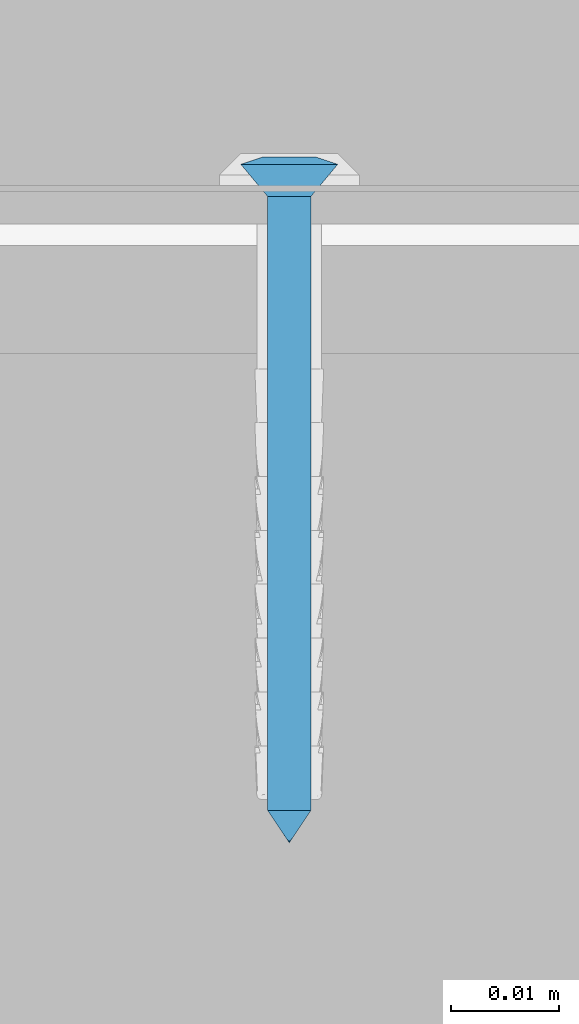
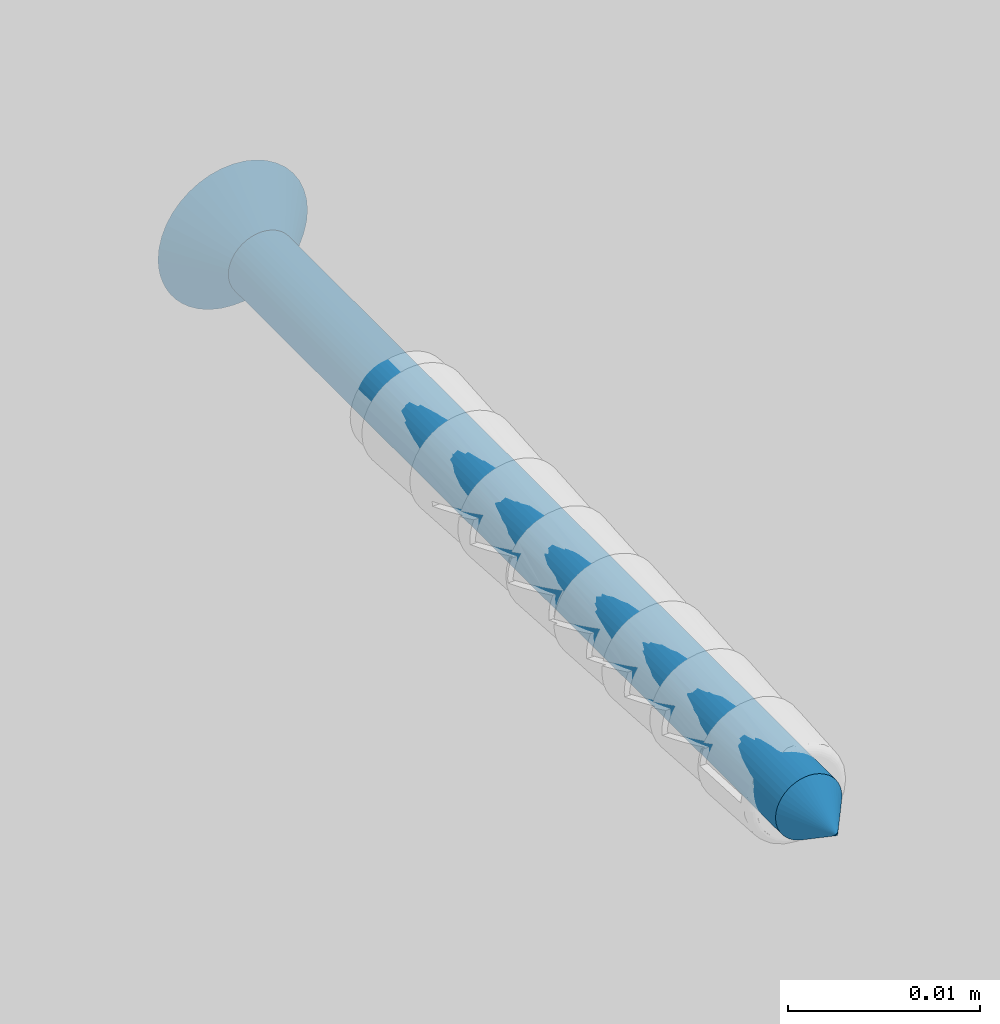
# One storey, part 17 of 92: 1 wall.
"""IFC2X3 building model written with IfcOpenShell, lengths in millimetres."""

from ifc_helpers import new_model, si_unit, frame, origin_with_axes, place, context, subcontext, project, spatial, faceted_brep, material, type_object, element, save


model = new_model("IFC2X3")

# Units and contexts
model_context = context("Model", 3, world=origin_with_axes())
body_context = subcontext(model_context, "Body", "Model", "MODEL_VIEW")
ifc_project = project(units=[si_unit("LENGTHUNIT", "METRE", prefix="MILLI"), si_unit("AREAUNIT", "SQUARE_METRE"), si_unit("VOLUMEUNIT", "CUBIC_METRE")], contexts=[model_context])

# Site, building, storey
site_placement = place(None, origin_with_axes())
site = spatial("IfcSite", under=ifc_project, at=site_placement, Name="Default Site", CompositionType="ELEMENT")
building_placement = place(site_placement, origin_with_axes())
building = spatial("IfcBuilding", under=site, at=building_placement, Name="Default Building", CompositionType="ELEMENT")
storey_placement = place(building_placement, origin_with_axes())
storey = spatial("IfcBuildingStorey", under=building, at=storey_placement, Name="Default Building Storey", CompositionType="ELEMENT", Elevation=0.0)

# Wall
ifc_material = material(Name="Default")
wall_type = type_object("IfcWallType", Name="Kołek rozporowy min. fi 6", PredefinedType="NOTDEFINED")
wall_placement = place(storey_placement, frame((3527.8498144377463, 118.01549176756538, 3446.231090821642), z_axis=(-1.89380159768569e-13, 1.0, 3.3306690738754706e-16), x_axis=(1.9030997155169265e-13, -3.3306690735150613e-16, 1.0)))
element("IfcWall", 1, at=wall_placement, inside=storey, type_object=wall_type, material=ifc_material, Name="Kołek rozporowy min. fi 6", context=body_context, shape_type="Brep", body=[
    faceted_brep([(-1438.2587671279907, -3452.579259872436, -0.46425670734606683), (-1435.7895851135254, -3452.970266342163, -3.464256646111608), (-1435.8141422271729, -3453.2833099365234, -3.464256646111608), (-1438.3141994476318, -3453.2833099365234, -0.46425670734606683), (-1438.093900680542, -3451.892614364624, -0.46425670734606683), (-1435.7162714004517, -3452.6650905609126, -3.464256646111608), (-1437.8236532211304, -3451.240301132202, -0.46425670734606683), (-1435.5961084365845, -3452.3751735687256, -3.464256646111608), (-1437.4547004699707, -3450.6382942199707, -0.46425670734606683), (-1435.4321956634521, -3452.107667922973, -3.464256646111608), (-1436.9961023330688, -3450.101137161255, -0.46425670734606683), (-1435.22834777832, -3451.8690109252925, -3.464256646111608), (-1436.4591836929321, -3449.642658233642, -0.46425670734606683), (-1434.9896907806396, -3451.665163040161, -3.464256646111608), (-1435.8570575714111, -3449.2735862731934, -0.46425670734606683), (-1434.7221851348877, -3451.501131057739, -3.464256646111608), (-1435.2047443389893, -3449.0034580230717, -0.46425670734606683), (-1434.4321489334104, -3451.381206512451, -3.464256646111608), (-1434.5180988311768, -3448.838710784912, -0.46425670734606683), (-1434.1269731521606, -3451.307773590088, -3.464256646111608), (-1433.8141679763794, -3448.7831592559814, -0.46425670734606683), (-1433.8141679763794, -3451.28321647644, -3.464256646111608), (-1433.110237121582, -3448.838710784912, -0.46425670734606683), (-1433.5012435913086, -3451.307773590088, -3.464256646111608), (-1432.4235916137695, -3449.0034580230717, -0.46425670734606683), (-1433.1960678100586, -3451.381206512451, -3.464256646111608), (-1431.771159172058, -3449.2735862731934, -0.46425670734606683), (-1432.9061508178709, -3451.501131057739, -3.464256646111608), (-1431.1691522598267, -3449.642658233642, -0.46425670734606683), (-1432.6385259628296, -3451.665163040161, -3.464256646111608), (-1430.6321144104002, -3450.101137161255, -0.46425670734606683), (-1432.3999881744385, -3451.8690109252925, -3.464256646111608), (-1430.1735162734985, -3450.6382942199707, -0.46425670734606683), (-1432.1961402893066, -3452.107667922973, -3.464256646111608), (-1429.8045635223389, -3451.240301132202, -0.46425670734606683), (-1432.0321083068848, -3452.3751735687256, -3.464256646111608), (-1429.5344352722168, -3451.892614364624, -0.46425670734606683), (-1431.9120645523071, -3452.6650905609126, -3.464256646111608), (-1431.814193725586, -3453.2833099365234, -3.464256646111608), (-1429.314136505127, -3453.2833099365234, -0.46425670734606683), (-1429.369568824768, -3453.9871215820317, -0.46425670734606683), (-1431.8387508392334, -3453.5961151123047, -3.464256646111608), (-1431.8387508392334, -3452.970266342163, -3.464256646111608), (-1429.369568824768, -3452.579259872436, -0.46425670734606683), (-1429.5344352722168, -3454.6737670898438, -0.46425670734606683), (-1431.9120645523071, -3453.9012908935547, -3.464256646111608), (-1429.8045635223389, -3455.3260803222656, -0.46425670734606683), (-1432.0321083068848, -3454.191207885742, -3.464256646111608), (-1430.1735162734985, -3455.9283256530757, -0.46425670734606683), (-1432.1961402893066, -3454.458713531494, -3.464256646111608), (-1430.6321144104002, -3456.465244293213, -0.46425670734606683), (-1432.3999881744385, -3454.6973705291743, -3.464256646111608), (-1431.1691522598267, -3456.923723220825, -0.46425670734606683), (-1432.6385259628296, -3454.9012184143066, -3.464256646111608), (-1431.771159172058, -3457.2927951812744, -0.46425670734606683), (-1432.9061508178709, -3455.065250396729, -3.464256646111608), (-1432.4235916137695, -3457.562923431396, -0.46425670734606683), (-1433.1960678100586, -3455.1854133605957, -3.464256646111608), (-1433.110237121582, -3457.7279090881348, -0.46425670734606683), (-1433.5012435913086, -3455.25860786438, -3.464256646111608), (-1433.8141679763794, -3457.7832221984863, -0.46425670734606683), (-1433.8141679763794, -3455.283164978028, -3.464256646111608), (-1434.1269731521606, -3455.25860786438, -3.464256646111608), (-1434.3430995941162, -3457.7519893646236, -0.46425670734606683), (-1434.4321489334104, -3455.1854133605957, -3.464256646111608), (-1434.8646402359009, -3457.6590061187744, -0.46425670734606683), (-1435.3716373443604, -3457.504987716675, -0.46425670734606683), (-1434.7221851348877, -3455.065250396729, -3.464256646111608), (-1435.8570575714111, -3457.2927951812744, -0.46425670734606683), (-1436.3142251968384, -3457.024812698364, -0.46425670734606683), (-1435.22834777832, -3454.6973705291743, -3.464256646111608), (-1434.9896907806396, -3454.9012184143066, -3.464256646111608), (-1436.7367029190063, -3456.705093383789, -0.46425670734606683), (-1437.118649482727, -3456.337928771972, -0.46425670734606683), (-1435.4321956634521, -3454.458713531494, -3.464256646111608), (-1437.4547004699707, -3455.9283256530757, -0.46425670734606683), (-1437.8236532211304, -3455.3260803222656, -0.46425670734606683), (-1435.5961084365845, -3454.191207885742, -3.464256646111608), (-1438.093900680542, -3454.6737670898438, -0.46425670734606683), (-1435.7162714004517, -3453.9012908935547, -3.464256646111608), (-1438.2587671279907, -3453.9871215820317, -0.46425670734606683), (-1435.7895851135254, -3453.5961151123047, -3.464256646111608), (-1433.8141679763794, -3455.7831287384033, 0.20073754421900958), (-1434.2052936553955, -3455.752372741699, 0.20073754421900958), (-1434.5866441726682, -3455.6608200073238, 0.20073754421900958), (-1434.9491596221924, -3455.510854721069, 0.20073754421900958), (-1435.2836608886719, -3455.305814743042, 0.20073754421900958), (-1435.581922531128, -3455.0509452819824, 0.20073754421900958), (-1435.836672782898, -3454.7526836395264, 0.20073754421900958), (-1436.0417127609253, -3454.418182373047, 0.20073754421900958), (-1436.1917972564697, -3454.0557861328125, 0.20073754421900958), (-1436.2833499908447, -3453.6743164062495, 0.20073754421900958), (-1436.3141059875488, -3453.2833099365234, 0.20073754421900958), (-1436.2833499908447, -3452.8920650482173, 0.20073754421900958), (-1436.1917972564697, -3452.5105953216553, 0.20073754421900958), (-1436.0417127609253, -3452.148199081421, 0.20073754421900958), (-1435.836672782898, -3451.8136978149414, 0.20073754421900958), (-1435.581922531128, -3451.5154361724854, 0.20073754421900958), (-1435.2836608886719, -3451.260566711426, 0.20073754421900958), (-1434.9491596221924, -3451.0557651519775, 0.20073754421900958), (-1434.5866441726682, -3450.905561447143, 0.20073754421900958), (-1433.8141679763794, -3450.7832527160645, 0.20073754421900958), (-1433.4230422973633, -3450.8140087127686, 0.20073754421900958), (-1434.2052936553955, -3450.8140087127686, 0.20073754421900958), (-1433.0415725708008, -3450.905561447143, 0.20073754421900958), (-1432.6791763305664, -3451.0557651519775, 0.20073754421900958), (-1432.344675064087, -3451.260566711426, 0.20073754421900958), (-1432.0464134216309, -3451.5154361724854, 0.20073754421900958), (-1431.7916631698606, -3451.8136978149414, 0.20073754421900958), (-1431.5866231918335, -3452.148199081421, 0.20073754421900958), (-1431.436538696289, -3452.5105953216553, 0.20073754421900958), (-1431.344985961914, -3452.8920650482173, 0.20073754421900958), (-1431.3141107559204, -3453.2833099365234, 0.20073754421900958), (-1431.344985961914, -3453.6743164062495, 0.20073754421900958), (-1431.436538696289, -3454.0557861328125, 0.20073754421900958), (-1431.5866231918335, -3454.418182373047, 0.20073754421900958), (-1431.7916631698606, -3454.7526836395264, 0.20073754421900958), (-1432.0464134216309, -3455.0509452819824, 0.20073754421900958), (-1432.344675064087, -3455.305814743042, 0.20073754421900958), (-1432.6791763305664, -3455.510854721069, 0.20073754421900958), (-1433.0415725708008, -3455.6608200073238, 0.20073754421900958), (-1433.4230422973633, -3455.752372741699, 0.20073754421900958), (-1435.8141422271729, -3453.2833099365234, -60.464255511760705), (-1435.7895851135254, -3452.970266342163, -60.464255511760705), (-1433.8141679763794, -3453.2833099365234, -63.46425414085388), (-1435.7162714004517, -3452.6650905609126, -60.464255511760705), (-1435.5961084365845, -3452.3751735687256, -60.464255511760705), (-1435.4321956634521, -3452.107667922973, -60.464255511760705), (-1435.22834777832, -3451.8690109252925, -60.464255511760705), (-1434.9896907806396, -3451.665163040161, -60.464255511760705), (-1434.7221851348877, -3451.501131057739, -60.464255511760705), (-1434.4321489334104, -3451.381206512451, -60.464255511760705), (-1434.1269731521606, -3451.307773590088, -60.464255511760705), (-1433.8141679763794, -3451.28321647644, -60.464255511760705), (-1433.5012435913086, -3451.307773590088, -60.464255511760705), (-1433.1960678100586, -3451.381206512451, -60.464255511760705), (-1432.9061508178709, -3451.501131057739, -60.464255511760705), (-1432.6385259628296, -3451.665163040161, -60.464255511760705), (-1432.3999881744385, -3451.8690109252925, -60.464255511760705), (-1432.1961402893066, -3452.107667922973, -60.464255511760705), (-1432.0321083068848, -3452.3751735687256, -60.464255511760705), (-1431.9120645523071, -3452.6650905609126, -60.464255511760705), (-1431.8387508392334, -3452.970266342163, -60.464255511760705), (-1431.814193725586, -3453.2833099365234, -60.464255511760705), (-1431.8387508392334, -3453.5961151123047, -60.464255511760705), (-1431.9120645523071, -3453.9012908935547, -60.464255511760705), (-1432.0321083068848, -3454.191207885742, -60.464255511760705), (-1432.1961402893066, -3454.458713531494, -60.464255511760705), (-1432.3999881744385, -3454.6973705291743, -60.464255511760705), (-1432.6385259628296, -3454.9012184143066, -60.464255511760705), (-1432.9061508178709, -3455.065250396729, -60.464255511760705), (-1433.1960678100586, -3455.1854133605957, -60.464255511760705), (-1433.5012435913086, -3455.25860786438, -60.464255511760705), (-1433.8141679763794, -3455.283164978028, -60.464255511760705), (-1434.1269731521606, -3455.25860786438, -60.464255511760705), (-1434.4321489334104, -3455.1854133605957, -60.464255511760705), (-1434.7221851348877, -3455.065250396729, -60.464255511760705), (-1434.9896907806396, -3454.9012184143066, -60.464255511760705), (-1435.22834777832, -3454.6973705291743, -60.464255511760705), (-1435.4321956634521, -3454.458713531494, -60.464255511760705), (-1435.5961084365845, -3454.191207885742, -60.464255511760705), (-1435.7162714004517, -3453.9012908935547, -60.464255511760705), (-1435.7895851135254, -3453.5961151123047, -60.464255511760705), (-1436.1917972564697, -3454.0557861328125, 0.049999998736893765), (-1436.0417127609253, -3454.418182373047, 0.049999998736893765), (-1435.836672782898, -3454.7526836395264, 0.049999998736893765), (-1435.581922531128, -3455.0509452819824, 0.049999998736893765), (-1435.2836608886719, -3455.305814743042, 0.049999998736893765), (-1434.9491596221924, -3455.510854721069, 0.049999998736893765), (-1434.5866441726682, -3455.6608200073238, 0.049999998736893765), (-1434.2052936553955, -3455.752372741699, 0.049999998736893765), (-1433.8141679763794, -3455.7831287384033, 0.049999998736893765), (-1433.4230422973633, -3455.752372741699, 0.049999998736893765), (-1433.0415725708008, -3455.6608200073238, 0.049999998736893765), (-1432.6791763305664, -3455.510854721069, 0.049999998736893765), (-1432.344675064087, -3455.305814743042, 0.049999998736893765), (-1432.0464134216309, -3455.0509452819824, 0.049999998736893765), (-1431.7916631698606, -3454.7526836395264, 0.049999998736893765), (-1431.5866231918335, -3454.418182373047, 0.049999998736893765), (-1431.436538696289, -3454.0557861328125, 0.049999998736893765), (-1431.344985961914, -3453.6743164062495, 0.049999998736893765), (-1431.3141107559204, -3453.2833099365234, 0.049999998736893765), (-1431.344985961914, -3452.8920650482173, 0.049999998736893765), (-1431.436538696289, -3452.5105953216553, 0.049999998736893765), (-1431.5866231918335, -3452.148199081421, 0.049999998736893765), (-1431.7916631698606, -3451.8136978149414, 0.049999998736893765), (-1432.0464134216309, -3451.5154361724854, 0.049999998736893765), (-1432.344675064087, -3451.260566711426, 0.049999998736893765), (-1432.6791763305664, -3451.0557651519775, 0.049999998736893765), (-1433.0415725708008, -3450.905561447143, 0.049999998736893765), (-1433.4230422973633, -3450.8140087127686, 0.049999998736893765), (-1433.8141679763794, -3450.7832527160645, 0.049999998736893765), (-1434.2052936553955, -3450.8140087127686, 0.049999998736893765), (-1434.5866441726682, -3450.905561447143, 0.049999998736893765), (-1434.9491596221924, -3451.0557651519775, 0.049999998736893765), (-1435.2836608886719, -3451.260566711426, 0.049999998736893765), (-1435.581922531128, -3451.5154361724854, 0.049999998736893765), (-1435.836672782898, -3451.8136978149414, 0.049999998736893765), (-1436.0417127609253, -3452.148199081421, 0.049999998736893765), (-1436.1917972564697, -3452.5105953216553, 0.049999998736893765), (-1436.2833499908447, -3452.8920650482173, 0.049999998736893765), (-1436.3141059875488, -3453.2833099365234, 0.049999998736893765), (-1436.2833499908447, -3453.6743164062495, 0.049999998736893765), (-1434.3141317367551, -3453.7832736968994, 0.049999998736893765), (-1435.8141422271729, -3453.7832736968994, 0.049999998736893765), (-1435.8141422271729, -3452.7831077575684, 0.049999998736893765), (-1434.3141317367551, -3452.7831077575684, 0.049999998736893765), (-1434.3141317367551, -3451.28321647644, 0.049999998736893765), (-1433.3142042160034, -3451.28321647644, 0.049999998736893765), (-1433.3142042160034, -3452.7831077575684, 0.049999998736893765), (-1431.814193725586, -3452.7831077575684, 0.049999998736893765), (-1431.814193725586, -3453.7832736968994, 0.049999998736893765), (-1433.3142042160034, -3453.7832736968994, 0.049999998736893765), (-1433.3142042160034, -3455.283164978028, 0.049999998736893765), (-1434.3141317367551, -3455.283164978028, 0.049999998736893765), (-1435.8141422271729, -3452.7831077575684, -1.799262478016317), (-1435.8141422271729, -3453.7832736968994, -1.799262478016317), (-1434.3141317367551, -3453.7832736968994, -1.799262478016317), (-1434.3141317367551, -3455.283164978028, -1.799262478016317), (-1433.3142042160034, -3455.283164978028, -1.799262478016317), (-1433.3142042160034, -3453.7832736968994, -1.799262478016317), (-1431.814193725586, -3453.7832736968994, -1.799262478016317), (-1431.814193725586, -3452.7831077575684, -1.799262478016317), (-1433.3142042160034, -3452.7831077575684, -1.799262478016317), (-1433.3142042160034, -3451.28321647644, -1.799262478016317), (-1434.3141317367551, -3451.28321647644, -1.799262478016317), (-1434.3141317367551, -3452.7831077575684, -1.799262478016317)], [[[0, 1, 2, 3]], [[1, 0, 4, 5]], [[5, 4, 6, 7]], [[8, 9, 7, 6]], [[9, 8, 10, 11]], [[12, 13, 11, 10]], [[13, 12, 14, 15]], [[15, 14, 16, 17]], [[18, 19, 17, 16]], [[19, 18, 20, 21]], [[22, 23, 21, 20]], [[23, 22, 24, 25]], [[25, 24, 26, 27]], [[28, 29, 27, 26]], [[29, 28, 30, 31]], [[32, 33, 31, 30]], [[33, 32, 34, 35]], [[35, 34, 36, 37]], [[38, 39, 40, 41]], [[42, 43, 39, 38]], [[43, 42, 37, 36]], [[41, 40, 44, 45]], [[45, 44, 46, 47]], [[48, 49, 47, 46]], [[49, 48, 50, 51]], [[52, 53, 51, 50]], [[53, 52, 54, 55]], [[55, 54, 56, 57]], [[58, 59, 57, 56]], [[59, 58, 60, 61]], [[62, 60, 63]], [[62, 61, 60]], [[63, 64, 62]], [[63, 65, 64]], [[64, 65, 66]], [[66, 67, 64]], [[66, 68, 67]], [[69, 70, 71]], [[69, 72, 70]], [[71, 68, 69]], [[71, 67, 68]], [[72, 73, 70]], [[74, 73, 75]], [[74, 70, 73]], [[74, 75, 76, 77]], [[77, 76, 78, 79]], [[80, 81, 79, 78]], [[81, 80, 3, 2]], [[63, 82, 83]], [[63, 60, 82]], [[83, 65, 63]], [[83, 84, 65]], [[84, 68, 66]], [[84, 85, 68]], [[66, 65, 84]], [[69, 85, 86]], [[69, 68, 85]], [[87, 73, 72]], [[72, 86, 87]], [[72, 69, 86]], [[75, 87, 88]], [[75, 73, 87]], [[75, 88, 89, 76]], [[76, 89, 90, 78]], [[91, 80, 78, 90]], [[80, 91, 92, 3]], [[93, 0, 3, 92]], [[0, 93, 94, 4]], [[4, 94, 95, 6]], [[96, 8, 6, 95]], [[8, 96, 97, 10]], [[98, 12, 10, 97]], [[12, 98, 99, 14]], [[14, 99, 100, 16]], [[20, 101, 102, 22]], [[18, 103, 101, 20]], [[103, 18, 16, 100]], [[22, 102, 104, 24]], [[24, 104, 105, 26]], [[106, 28, 26, 105]], [[28, 106, 107, 30]], [[108, 32, 30, 107]], [[32, 108, 109, 34]], [[34, 109, 110, 36]], [[111, 43, 36, 110]], [[43, 111, 112, 39]], [[113, 40, 39, 112]], [[40, 113, 114, 44]], [[44, 114, 115, 46]], [[116, 48, 46, 115]], [[48, 116, 117, 50]], [[118, 52, 50, 117]], [[52, 118, 119, 54]], [[54, 119, 120, 56]], [[121, 58, 56, 120]], [[58, 121, 82, 60]], [[122, 123, 124]], [[123, 125, 124]], [[125, 126, 124]], [[124, 126, 127]], [[127, 128, 124]], [[124, 128, 129]], [[129, 130, 124]], [[130, 131, 124]], [[124, 131, 132]], [[132, 133, 124]], [[124, 133, 134]], [[134, 135, 124]], [[135, 136, 124]], [[124, 136, 137]], [[137, 138, 124]], [[124, 138, 139]], [[139, 140, 124]], [[140, 141, 124]], [[124, 141, 142]], [[142, 143, 124]], [[124, 143, 144]], [[144, 145, 124]], [[145, 146, 124]], [[124, 146, 147]], [[147, 148, 124]], [[124, 148, 149]], [[149, 150, 124]], [[150, 151, 124]], [[124, 151, 152]], [[152, 153, 124]], [[124, 153, 154]], [[154, 155, 124]], [[155, 156, 124]], [[124, 156, 157]], [[157, 158, 124]], [[124, 158, 159]], [[159, 160, 124]], [[160, 161, 124]], [[124, 161, 162]], [[124, 162, 122]], [[1, 123, 122, 2]], [[123, 1, 5, 125]], [[125, 5, 7, 126]], [[9, 127, 126, 7]], [[127, 9, 11, 128]], [[13, 129, 128, 11]], [[129, 13, 15, 130]], [[130, 15, 17, 131]], [[19, 132, 131, 17]], [[132, 19, 21, 133]], [[23, 134, 133, 21]], [[134, 23, 25, 135]], [[135, 25, 27, 136]], [[29, 137, 136, 27]], [[137, 29, 31, 138]], [[33, 139, 138, 31]], [[139, 33, 35, 140]], [[140, 35, 37, 141]], [[143, 38, 41, 144]], [[142, 42, 38, 143]], [[42, 142, 141, 37]], [[144, 41, 45, 145]], [[145, 45, 47, 146]], [[49, 147, 146, 47]], [[147, 49, 51, 148]], [[53, 149, 148, 51]], [[149, 53, 55, 150]], [[150, 55, 57, 151]], [[59, 152, 151, 57]], [[152, 59, 61, 153]], [[62, 154, 153, 61]], [[154, 62, 64, 155]], [[155, 64, 67, 156]], [[71, 157, 156, 67]], [[157, 71, 70, 158]], [[74, 159, 158, 70]], [[159, 74, 77, 160]], [[160, 77, 79, 161]], [[81, 162, 161, 79]], [[162, 81, 2, 122]], [[163, 164, 165, 166, 167, 168, 169, 170, 171, 172, 173, 174, 175, 176, 177, 178, 179, 180, 181, 182, 183, 184, 185, 186, 187, 188, 189, 190, 191, 192, 193, 194, 195, 196, 197, 198, 199, 200, 201, 202], [203, 204, 205, 206, 207, 208, 209, 210, 211, 212, 213, 214]], [[113, 112, 181, 180]], [[180, 179, 114, 113]], [[179, 178, 115, 114]], [[116, 115, 178, 177]], [[177, 176, 117, 116]], [[118, 117, 176, 175]], [[175, 174, 119, 118]], [[174, 173, 120, 119]], [[121, 120, 173, 172]], [[172, 171, 82, 121]], [[83, 82, 171, 170]], [[170, 169, 84, 83]], [[169, 168, 85, 84]], [[86, 85, 168, 167]], [[167, 166, 87, 86]], [[88, 87, 166, 165]], [[165, 164, 89, 88]], [[164, 163, 90, 89]], [[201, 200, 93, 92]], [[202, 201, 92, 91]], [[91, 90, 163, 202]], [[200, 199, 94, 93]], [[199, 198, 95, 94]], [[96, 95, 198, 197]], [[197, 196, 97, 96]], [[98, 97, 196, 195]], [[195, 194, 99, 98]], [[194, 193, 100, 99]], [[103, 100, 193, 192]], [[192, 191, 101, 103]], [[102, 101, 191, 190]], [[190, 189, 104, 102]], [[189, 188, 105, 104]], [[106, 105, 188, 187]], [[187, 186, 107, 106]], [[108, 107, 186, 185]], [[185, 184, 109, 108]], [[184, 183, 110, 109]], [[111, 110, 183, 182]], [[182, 181, 112, 111]], [[215, 216, 217, 218, 219, 220, 221, 222, 223, 224, 225, 226]], [[224, 208, 207, 225]], [[225, 207, 206, 226]], [[226, 206, 205, 215]], [[215, 205, 204, 216]], [[216, 204, 203, 217]], [[217, 203, 214, 218]], [[218, 214, 213, 219]], [[219, 213, 212, 220]], [[220, 212, 211, 221]], [[221, 211, 210, 222]], [[222, 210, 209, 223]], [[223, 209, 208, 224]]]),
])

save(model, "model.ifc")
